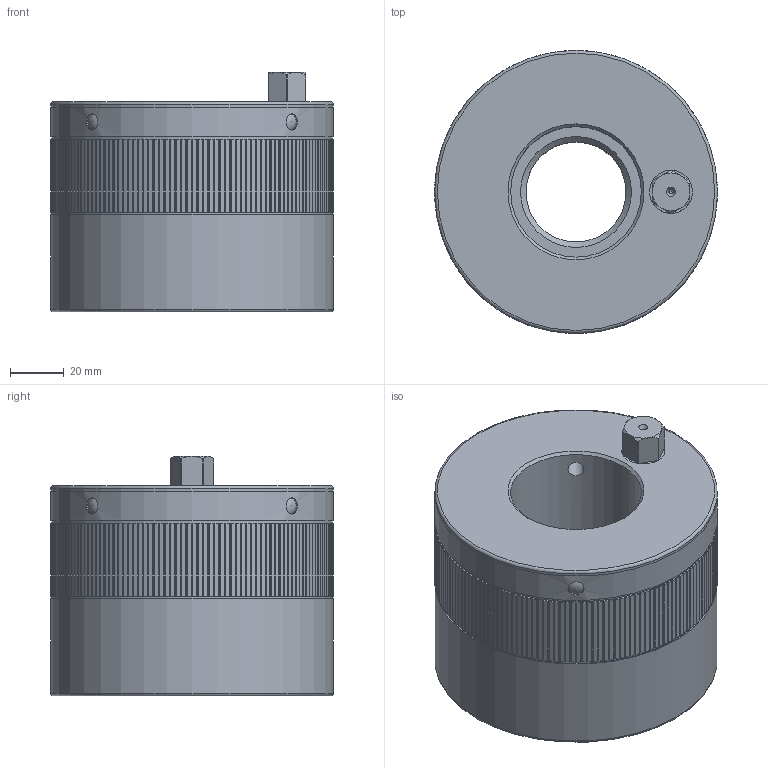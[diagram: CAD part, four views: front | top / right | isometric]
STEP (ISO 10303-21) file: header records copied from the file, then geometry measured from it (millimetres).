
FILE_DESCRIPTION(/* description */ ('Unknown','CAx-IF Rec.Pracs.---Representation and Presentation of Product Manufacturing Information (PMI)---4.0---2014-10-13','CAx-IF Rec.Pracs.---3D Tessellated Geometry---0.4---2014-09-14','2;1'),/* implementation_level */ '2;1');
FILE_NAME(/* name */ 'MDA 180_SW14_M42',/* time_stamp */ '2023-09-15T11:11:37+02:00',/* author */ ('Unknown'),/* organization */ ('Unknown'),/* preprocessor_version */ 'ST-DEVELOPER v18.102',/* originating_system */ 'Solid Edge',/* authorisation */ 'Unknown');
FILE_SCHEMA (('AP242_MANAGED_MODEL_BASED_3D_ENGINEERING_MIM_LF { 1 0 10303 442 1 1 4 }'));
Length unit declared in the file: millimetre
Products named in the file (7): 05933055; 43733051; 42231918; KT100003; 46432086; KT100869; 46331557
Assembly tree (9 placements, depth 2):
  05933055
    43733051
    42231918
    KT100003  x4
    46432086
    KT100869
    46331557
Bounding box: 105 x 105 x 89 mm (x, y, z)
Volume: 496465.5 mm3; surface area: 143087.4 mm2
Topology: 9 solids, 9 shells, 617 faces, 1758 edges, 1160 vertices
Faces by surface type: plane 354, cylinder 205, cone 36, torus 10, sphere 8, bspline 4
Full cylindrical faces by diameter (mm): 1.6 x2, 6 x12, 16 x2, 16.5 x1, 37.129 x1, 48.5 x1, 62 x3, 83.2 x1, 88 x1, 90 x1, 95.5 x1, 95.9 x1, 96 x3, 104 x2, 105 x3
Entity records: 20001 total; most frequent: CARTESIAN_POINT 3917, ORIENTED_EDGE 3254, DIRECTION 3250, EDGE_CURVE 1627, LINE 1154, VECTOR 1154, VERTEX_POINT 1117, AXIS2_PLACEMENT_3D 1048
